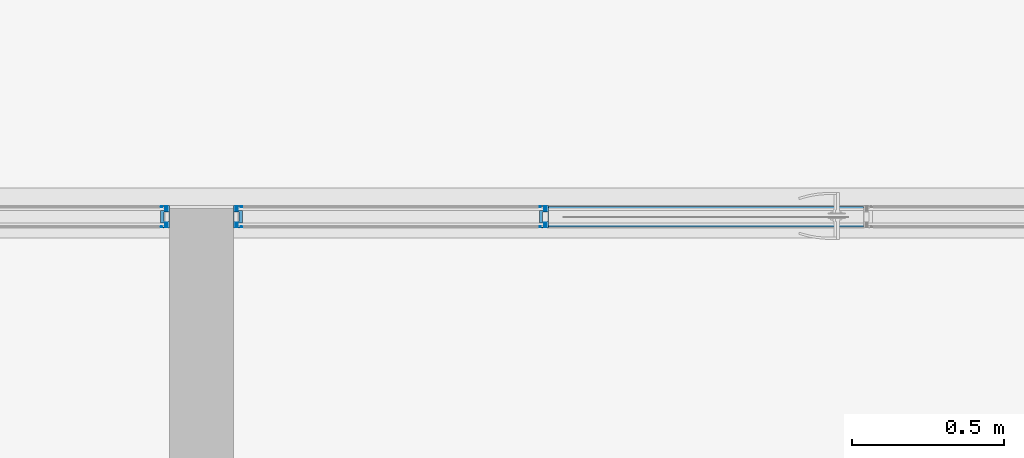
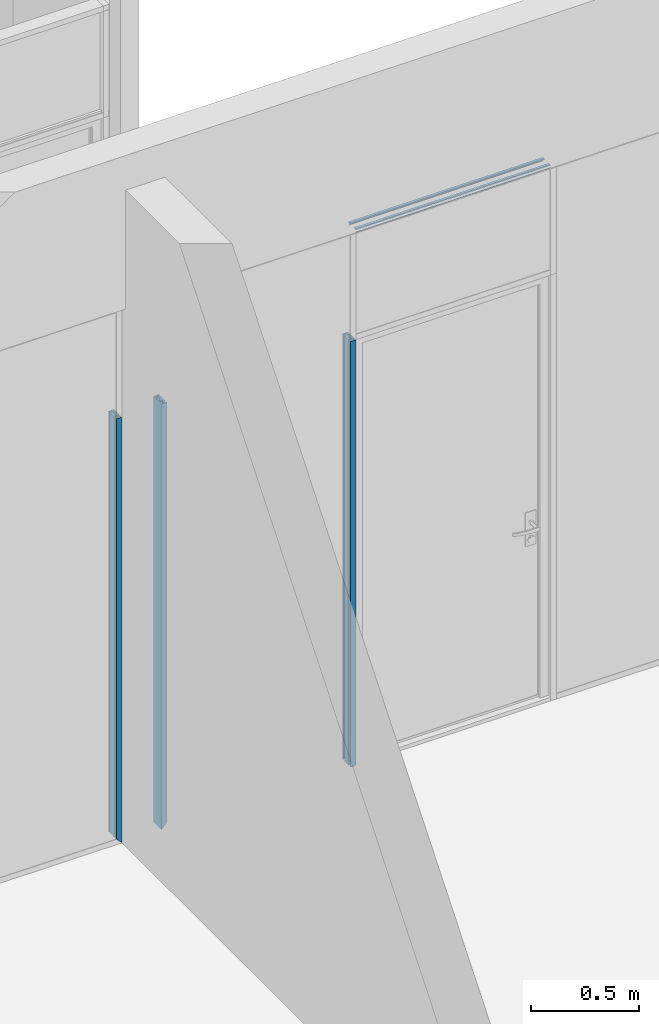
# One storey, part 80 of 387: 7 building element parts, 6 elements without a shape of their own.
"""IFC2X3 building model written with IfcOpenShell, lengths in millimetres."""

from ifc_helpers import new_model, entity, si_unit, converted_unit, derived_unit, money_unit, direction, frame, origin_with_axes, place, context, subcontext, project, spatial, faceted_brep, source, transform, mapped, material, type_object, element, aggregate, save


model = new_model("IFC2X3")

# Units and contexts
model_context = context("Model", 3, precision=0.01, world=origin_with_axes(), true_north=direction((0.0, 1.0)))
body_context = subcontext(model_context, "Body", "Model", "MODEL_VIEW")
ifc_project = project(units=[si_unit("LENGTHUNIT", "METRE", prefix="MILLI"), si_unit("AREAUNIT", "SQUARE_METRE"), si_unit("VOLUMEUNIT", "CUBIC_METRE"), converted_unit("PLANEANGLEUNIT", "DEGREE", entity("IfcPlaneAngleMeasure", 0.0174532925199), si_unit("PLANEANGLEUNIT", "RADIAN"), dimensions=[0, 0, 0, 0, 0, 0, 0]), si_unit("SOLIDANGLEUNIT", "STERADIAN"), money_unit("EUR"), converted_unit("TIMEUNIT", "Year", entity("IfcTimeMeasure", 31556926.0), si_unit("TIMEUNIT", "SECOND"), dimensions=[0, 0, 1, 0, 0, 0, 0]), si_unit("MASSUNIT", "GRAM", prefix="KILO"), si_unit("THERMODYNAMICTEMPERATUREUNIT", "DEGREE_CELSIUS"), si_unit("LUMINOUSINTENSITYUNIT", "LUMEN"), si_unit("ENERGYUNIT", "JOULE", prefix="MEGA"), derived_unit("THERMALCONDUCTANCEUNIT", [(si_unit("POWERUNIT", "WATT"), 1), (si_unit("LENGTHUNIT", "METRE"), -1), (si_unit("THERMODYNAMICTEMPERATUREUNIT", "KELVIN"), -1)]), derived_unit("SPECIFICHEATCAPACITYUNIT", [(si_unit("ENERGYUNIT", "JOULE"), 1), (si_unit("MASSUNIT", "GRAM", prefix="KILO"), -1), (si_unit("THERMODYNAMICTEMPERATUREUNIT", "KELVIN"), -1)]), derived_unit("MASSDENSITYUNIT", [(si_unit("MASSUNIT", "GRAM", prefix="KILO"), 1), (si_unit("VOLUMEUNIT", "CUBIC_METRE"), -1)])], contexts=[model_context])

# Site, building, storey
site_placement = place(None, origin_with_axes())
site = spatial("IfcSite", under=ifc_project, at=site_placement, Name="Puškini 31, Narva", CompositionType="ELEMENT")
building_placement = place(site_placement, origin_with_axes())
building = spatial("IfcBuilding", under=site, at=building_placement, Name="Narva Riigigümnaasium", CompositionType="ELEMENT")
storey_placement = place(building_placement, frame((0.0, 0.0, 2640.0), z_axis=(0.0, 0.0, 1.0), x_axis=(1.0, 0.0, 0.0)))
storey = spatial("IfcBuildingStorey", under=building, at=storey_placement, Name="2.korrus +2.64", CompositionType="ELEMENT", Elevation=2640.0)

# Curtain wall, member, building element parts
curtain_wall_type = type_object("IfcCurtainWallType", Name="Curtain Wall Type", PredefinedType="NOTDEFINED")
curtain_wall_1_placement = place(storey_placement, frame((41856.9999981, 173462.999993, -5.89838209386e-05), z_axis=(0.0, 0.0, 1.0), x_axis=(1.0, 0.0, 0.0)))
curtain_wall_1 = element("IfcCurtainWall", 1, at=curtain_wall_1_placement, inside=storey, type_object=curtain_wall_type, Name="G-SKLF-26")
member_type = type_object("IfcMemberType", Name="30 x 37", PredefinedType="MULLION")
member_1_placement = place(curtain_wall_1_placement, frame((-1557.0, 1.5319301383e-08, 0.0), z_axis=(0.0, 0.0, 1.0), x_axis=(-1.0, 0.0, 0.0)))
member_1 = element("IfcMember", 2, at=member_1_placement, type_object=member_type, Name="G-SKLF-26-raam", ObjectType="MULLION")
ifc_material_1 = material(Name="Klaasvill")
shared_shape_1 = source(origin_with_axes(), body_context, "Body", "Brep", [
    faceted_brep([(13.8499999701, 20.000000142, 13.8500005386), (13.8499999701, 20.000000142, 2400.00003102), (7.49999990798, 20.000000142, 2400.00003102), (7.49999990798, 20.000000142, 7.5000002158), (13.8499999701, 34.0161444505, 13.8500005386), (13.8499999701, 34.0161444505, 2400.00003102), (7.49999990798, 34.0161444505, 2400.00003102), (7.49999990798, 34.0161444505, 7.5000002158)], [[[0, 1, 2, 3]], [[4, 5, 1, 0]], [[2, 1, 5, 6]], [[3, 2, 6, 7]], [[3, 7, 4, 0]], [[7, 6, 5, 4]]]),
    faceted_brep([(25.004489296, 32.0307503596, 25.0044903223), (25.004489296, 32.0307503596, 2400.00003102), (24.987414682, 34.0161444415, 2400.00003102), (24.987414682, 34.0161444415, 24.9874157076), (25.742237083, 31.2930025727, 25.7422381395), (25.742237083, 31.2930025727, 2400.00003102), (26.7500193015, 31.0229681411, 2400.00003102), (27.75780152, 31.2930025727, 2400.00003102), (28.4955493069, 32.0307503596, 2400.00003102), (28.7655837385, 33.0385325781, 2400.00003102), (28.5126239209, 34.0161444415, 2400.00003102), (28.5126239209, 34.0161444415, 28.5126250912), (28.7655837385, 33.0385325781, 28.7655849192), (28.4955493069, 32.0307503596, 28.4955504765), (27.75780152, 31.2930025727, 27.7578026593), (26.7500193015, 31.0229681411, 26.7500203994)], [[[0, 1, 2, 3]], [[4, 5, 1, 0]], [[2, 1, 5, 6, 7, 8, 9, 10]], [[3, 2, 10, 11]], [[3, 11, 12, 13, 14, 15, 4, 0]], [[15, 6, 5, 4]], [[14, 7, 6, 15]], [[13, 8, 7, 14]], [[12, 9, 8, 13]], [[11, 10, 9, 12]]]),
    faceted_brep([(7.49999990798, -34.0161445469, 7.5000002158), (7.49999990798, -34.0161445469, 2400.00003102), (7.49999990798, -19.9999997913, 2400.00003102), (7.49999990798, -19.9999997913, 7.5000002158), (13.8499999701, -34.0161445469, 13.8500005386), (13.8499999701, -34.0161445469, 2400.00003102), (13.8499999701, -19.9999997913, 2400.00003102), (13.8499999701, -19.9999997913, 13.8500005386)], [[[0, 1, 2, 3]], [[4, 5, 1, 0]], [[2, 1, 5, 6]], [[3, 2, 6, 7]], [[3, 7, 4, 0]], [[7, 6, 5, 4]]]),
    faceted_brep([(24.987414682, -34.0161444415, 24.9874157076), (24.987414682, -34.0161444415, 2400.00003102), (25.004489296, -32.0307503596, 2400.00003102), (25.004489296, -32.0307503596, 25.0044903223), (28.5126239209, -34.0161444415, 28.5126250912), (28.5126239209, -34.0161444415, 2400.00003102), (28.7655837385, -33.0385325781, 2400.00003102), (28.4955493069, -32.0307503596, 2400.00003102), (27.75780152, -31.2930025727, 2400.00003102), (26.7500193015, -31.0229681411, 2400.00003102), (25.742237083, -31.2930025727, 2400.00003102), (25.742237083, -31.2930025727, 25.7422381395), (26.7500193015, -31.0229681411, 26.7500203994), (27.75780152, -31.2930025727, 27.7578026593), (28.4955493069, -32.0307503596, 28.4955504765), (28.7655837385, -33.0385325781, 28.7655849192)], [[[0, 1, 2, 3]], [[4, 5, 1, 0]], [[2, 1, 5, 6, 7, 8, 9, 10]], [[3, 2, 10, 11]], [[3, 11, 12, 13, 14, 15, 4, 0]], [[15, 6, 5, 4]], [[14, 7, 6, 15]], [[13, 8, 7, 14]], [[12, 9, 8, 13]], [[11, 10, 9, 12]]]),
])
building_element_part_1_placement = place(member_1_placement, origin_with_axes())
building_element_part_1 = element("IfcBuildingElementPart", 3, at=building_element_part_1_placement, material=ifc_material_1, Name="Klaasvill", context=body_context, shape_type="MappedRepresentation", body=[
    mapped(shared_shape_1, transform((0.0, 0.0, 0.0), x_axis=(-1.0, 0.0, 0.0), y_axis=(0.0, -1.0, 0.0), z_axis=(0.0, 0.0, 1.0))),
])
ifc_material_2 = material(Name="Teras RAL7012")
shared_shape_2 = source(origin_with_axes(), body_context, "Body", "Brep", [
    faceted_brep([(29.5999996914, -17.0000000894, 29.6000009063), (29.5999996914, -17.0000000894, 2400.00003102), (0.0, -17.0000000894, 2400.00003102), (0.0, -17.0000000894, 0.0), (29.5999996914, 17.0000000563, 29.6000009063), (29.5999996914, 17.0000000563, 2400.00003102), (0.0, 17.0000000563, 2400.00003102), (1.9999999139, 15.0000001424, 2400.00003102), (18.7999996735, 15.0000001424, 2400.00003102), (18.7999996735, -15.0000001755, 2400.00003102), (1.9999999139, -15.0000001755, 2400.00003102), (0.0, 17.0000000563, 0.0), (1.9999999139, 15.0000001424, 1.99999999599), (1.9999999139, -15.0000001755, 1.99999999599), (18.7999996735, -15.0000001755, 18.8000004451), (18.7999996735, 15.0000001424, 18.8000004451)], [[[0, 1, 2, 3]], [[4, 5, 1, 0]], [[2, 1, 5, 6], [7, 8, 9, 10]], [[3, 2, 6, 11]], [[3, 11, 4, 0], [12, 13, 14, 15]], [[11, 6, 5, 4]], [[15, 8, 7, 12]], [[14, 9, 8, 15]], [[13, 10, 9, 14]], [[12, 7, 10, 13]]]),
    faceted_brep([(29.5999996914, 17.0000000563, 29.6000009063), (29.5999996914, 17.0000000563, 2400.00003102), (0.0, 17.0, 2400.00003102), (0.0, 17.0, 0.0), (30.0000193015, 17.0, 30.0000205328), (30.0000193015, 17.0, 2400.00003102), (30.0000193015, 20.0, 2400.00003102), (13.8499999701, 20.000000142, 2400.00003102), (7.49999999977, 20.0, 2400.00003102), (7.49999999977, 34.0161444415, 2400.00003102), (13.8499999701, 34.0161444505, 2400.00003102), (24.987414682, 34.0161444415, 2400.00003102), (28.5126239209, 34.0161444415, 2400.00003102), (30.0000193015, 34.0161444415, 2400.00003102), (30.0000193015, 37.0, 2400.00003102), (0.0, 37.0, 2400.00003102), (0.0, 37.0, 0.0), (30.0000193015, 37.0, 30.0000205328), (30.0000193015, 34.0161444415, 30.0000205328), (28.5126239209, 34.0161444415, 28.5126250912), (24.987414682, 34.0161444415, 24.9874157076), (13.8499999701, 34.0161444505, 13.8500005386), (7.49999999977, 34.0161444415, 7.50000030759), (7.49999999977, 20.0, 7.50000030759), (13.8499999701, 20.000000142, 13.8500005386), (30.0000193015, 20.0, 30.0000205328)], [[[0, 1, 2, 3]], [[4, 5, 1, 0]], [[2, 1, 5, 6, 7, 8, 9, 10, 11, 12, 13, 14, 15]], [[3, 2, 15, 16]], [[3, 16, 17, 18, 19, 20, 21, 22, 23, 24, 25, 4, 0]], [[25, 6, 5, 4]], [[24, 7, 6, 25]], [[23, 8, 7, 24]], [[22, 9, 8, 23]], [[21, 10, 9, 22]], [[20, 11, 10, 21]], [[19, 12, 11, 20]], [[18, 13, 12, 19]], [[17, 14, 13, 18]], [[16, 15, 14, 17]]]),
    faceted_brep([(0.0, -37.0, 0.0), (0.0, -37.0, 2400.00003102), (0.0, -17.0, 2400.00003102), (0.0, -17.0, 0.0), (30.0000193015, -37.0, 30.0000205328), (30.0000193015, -37.0, 2400.00003102), (30.0000193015, -34.0161444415, 2400.00003102), (28.5126239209, -34.0161444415, 2400.00003102), (24.987414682, -34.0161444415, 2400.00003102), (13.8499999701, -34.0161445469, 2400.00003102), (7.49999999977, -34.0161444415, 2400.00003102), (7.49999999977, -20.0, 2400.00003102), (13.8499999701, -19.9999997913, 2400.00003102), (30.0000193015, -20.0, 2400.00003102), (30.0000193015, -17.0, 2400.00003102), (29.5999996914, -17.0000000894, 2400.00003102), (29.5999996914, -17.0000000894, 29.6000009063), (30.0000193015, -17.0, 30.0000205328), (30.0000193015, -20.0, 30.0000205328), (13.8499999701, -19.9999997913, 13.8500005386), (7.49999999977, -20.0, 7.50000030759), (7.49999999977, -34.0161444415, 7.50000030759), (13.8499999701, -34.0161445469, 13.8500005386), (24.987414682, -34.0161444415, 24.9874157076), (28.5126239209, -34.0161444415, 28.5126250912), (30.0000193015, -34.0161444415, 30.0000205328)], [[[0, 1, 2, 3]], [[4, 5, 1, 0]], [[2, 1, 5, 6, 7, 8, 9, 10, 11, 12, 13, 14, 15]], [[3, 2, 15, 16]], [[3, 16, 17, 18, 19, 20, 21, 22, 23, 24, 25, 4, 0]], [[25, 6, 5, 4]], [[24, 7, 6, 25]], [[23, 8, 7, 24]], [[22, 9, 8, 23]], [[21, 10, 9, 22]], [[20, 11, 10, 21]], [[19, 12, 11, 20]], [[18, 13, 12, 19]], [[17, 14, 13, 18]], [[16, 15, 14, 17]]]),
])
building_element_part_2_placement = place(member_1_placement, origin_with_axes())
building_element_part_2 = element("IfcBuildingElementPart", 4, at=building_element_part_2_placement, material=ifc_material_2, Name="Teras RAL7012", context=body_context, shape_type="MappedRepresentation", body=[
    mapped(shared_shape_2, transform((0.0, 0.0, 0.0), x_axis=(-1.0, 0.0, 0.0), y_axis=(0.0, -1.0, 0.0), z_axis=(0.0, 0.0, 1.0))),
])
aggregate(member_1, [building_element_part_1, building_element_part_2])

curtain_wall_2_placement = place(storey_placement, frame((37550.2857124, 173462.999993, -4.40148757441e-05), z_axis=(0.0, 0.0, 1.0), x_axis=(1.0, 0.0, 0.0)))
curtain_wall_2 = element("IfcCurtainWall", 5, at=curtain_wall_2_placement, inside=storey, type_object=curtain_wall_type, Name="G-SKLF-27")
member_2_placement = place(curtain_wall_2_placement, frame((2539.71428571, 1.77351466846e-08, 3.92464998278e-05), z_axis=(0.0, 0.0, 1.0), x_axis=(1.0, 0.0, 0.0)))
member_2 = element("IfcMember", 6, at=member_2_placement, type_object=member_type, Name="G-SKLF-45-raam", ObjectType="MULLION")
aggregate(curtain_wall_2, [member_2])
shared_shape_3 = source(origin_with_axes(), body_context, "Body", "Brep", [
    faceted_brep([(-13.8499999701, 20.000000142, 13.8499999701), (-7.49999990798, 20.000000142, 7.49999990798), (-7.49999990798, 20.000000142, 2400.00000477), (-13.8499999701, 20.000000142, 2400.00000477), (-13.8499999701, 34.0161444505, 13.8499999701), (-7.49999990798, 34.0161444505, 7.49999990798), (-7.49999990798, 34.0161444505, 2400.00000477), (-13.8499999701, 34.0161444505, 2400.00000477)], [[[0, 1, 2, 3]], [[1, 0, 4, 5]], [[1, 5, 6, 2]], [[2, 6, 7, 3]], [[4, 0, 3, 7]], [[5, 4, 7, 6]]]),
    faceted_brep([(-25.004489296, 32.0307503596, 25.004489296), (-24.987414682, 34.0161444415, 24.987414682), (-24.987414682, 34.0161444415, 2400.00000477), (-25.004489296, 32.0307503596, 2400.00000477), (-25.742237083, 31.2930025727, 25.742237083), (-26.7500193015, 31.0229681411, 26.7500193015), (-27.75780152, 31.2930025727, 27.75780152), (-28.4955493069, 32.0307503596, 28.4955493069), (-28.7655837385, 33.0385325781, 28.7655837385), (-28.5126239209, 34.0161444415, 28.5126239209), (-28.5126239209, 34.0161444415, 2400.00000477), (-28.7655837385, 33.0385325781, 2400.00000477), (-28.4955493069, 32.0307503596, 2400.00000477), (-27.75780152, 31.2930025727, 2400.00000477), (-26.7500193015, 31.0229681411, 2400.00000477), (-25.742237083, 31.2930025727, 2400.00000477)], [[[0, 1, 2, 3]], [[1, 0, 4, 5, 6, 7, 8, 9]], [[1, 9, 10, 2]], [[2, 10, 11, 12, 13, 14, 15, 3]], [[4, 0, 3, 15]], [[5, 4, 15, 14]], [[6, 5, 14, 13]], [[7, 6, 13, 12]], [[8, 7, 12, 11]], [[9, 8, 11, 10]]]),
    faceted_brep([(-7.49999990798, -34.0161445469, 7.49999990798), (-7.49999990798, -19.9999997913, 7.49999990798), (-7.49999990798, -19.9999997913, 2400.00000477), (-7.49999990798, -34.0161445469, 2400.00000477), (-13.8499999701, -34.0161445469, 13.8499999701), (-13.8499999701, -19.9999997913, 13.8499999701), (-13.8499999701, -19.9999997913, 2400.00000477), (-13.8499999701, -34.0161445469, 2400.00000477)], [[[0, 1, 2, 3]], [[1, 0, 4, 5]], [[1, 5, 6, 2]], [[2, 6, 7, 3]], [[4, 0, 3, 7]], [[5, 4, 7, 6]]]),
    faceted_brep([(-24.987414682, -34.0161444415, 24.987414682), (-25.004489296, -32.0307503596, 25.004489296), (-25.004489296, -32.0307503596, 2400.00000477), (-24.987414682, -34.0161444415, 2400.00000477), (-28.5126239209, -34.0161444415, 28.5126239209), (-28.7655837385, -33.0385325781, 28.7655837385), (-28.4955493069, -32.0307503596, 28.4955493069), (-27.75780152, -31.2930025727, 27.75780152), (-26.7500193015, -31.0229681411, 26.7500193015), (-25.742237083, -31.2930025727, 25.742237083), (-25.742237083, -31.2930025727, 2400.00000477), (-26.7500193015, -31.0229681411, 2400.00000477), (-27.75780152, -31.2930025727, 2400.00000477), (-28.4955493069, -32.0307503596, 2400.00000477), (-28.7655837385, -33.0385325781, 2400.00000477), (-28.5126239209, -34.0161444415, 2400.00000477)], [[[0, 1, 2, 3]], [[1, 0, 4, 5, 6, 7, 8, 9]], [[1, 9, 10, 2]], [[2, 10, 11, 12, 13, 14, 15, 3]], [[4, 0, 3, 15]], [[5, 4, 15, 14]], [[6, 5, 14, 13]], [[7, 6, 13, 12]], [[8, 7, 12, 11]], [[9, 8, 11, 10]]]),
])
building_element_part_3_placement = place(member_2_placement, origin_with_axes())
building_element_part_3 = element("IfcBuildingElementPart", 7, at=building_element_part_3_placement, material=ifc_material_1, Name="Klaasvill", context=body_context, shape_type="MappedRepresentation", body=[
    mapped(shared_shape_3, transform((0.0, 0.0, 0.0))),
])
shared_shape_4 = source(origin_with_axes(), body_context, "Body", "Brep", [
    faceted_brep([(-29.5999996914, -17.0000000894, 29.5999996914), (0.0, -17.0000000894, 0.0), (0.0, -17.0000000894, 2400.00000477), (-29.5999996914, -17.0000000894, 2400.00000477), (-29.5999996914, 17.0000000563, 29.5999996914), (0.0, 17.0000000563, 0.0), (-1.9999999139, 15.0000001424, 1.9999999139), (-18.7999996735, 15.0000001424, 18.7999996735), (-18.7999996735, -15.0000001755, 18.7999996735), (-1.9999999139, -15.0000001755, 1.9999999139), (0.0, 17.0000000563, 2400.00000477), (-29.5999996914, 17.0000000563, 2400.00000477), (-1.9999999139, 15.0000001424, 2400.00000477), (-1.9999999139, -15.0000001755, 2400.00000477), (-18.7999996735, -15.0000001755, 2400.00000477), (-18.7999996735, 15.0000001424, 2400.00000477)], [[[0, 1, 2, 3]], [[1, 0, 4, 5], [6, 7, 8, 9]], [[1, 5, 10, 2]], [[2, 10, 11, 3], [12, 13, 14, 15]], [[4, 0, 3, 11]], [[5, 4, 11, 10]], [[7, 6, 12, 15]], [[8, 7, 15, 14]], [[9, 8, 14, 13]], [[6, 9, 13, 12]]]),
    faceted_brep([(-29.5999996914, 17.0000000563, 29.5999996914), (0.0, 17.0, 0.0), (0.0, 17.0, 2400.00000477), (-29.5999996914, 17.0000000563, 2400.00000477), (-30.0000193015, 17.0, 30.0000193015), (-30.0000193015, 20.0, 30.0000193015), (-13.8499999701, 20.000000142, 13.8499999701), (-7.49999999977, 20.0, 7.49999999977), (-7.49999999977, 34.0161444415, 7.49999999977), (-13.8499999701, 34.0161444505, 13.8499999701), (-24.987414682, 34.0161444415, 24.987414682), (-28.5126239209, 34.0161444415, 28.5126239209), (-30.0000193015, 34.0161444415, 30.0000193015), (-30.0000193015, 37.0, 30.0000193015), (0.0, 37.0, 0.0), (0.0, 37.0, 2400.00000477), (-30.0000193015, 37.0, 2400.00000477), (-30.0000193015, 34.0161444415, 2400.00000477), (-28.5126239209, 34.0161444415, 2400.00000477), (-24.987414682, 34.0161444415, 2400.00000477), (-13.8499999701, 34.0161444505, 2400.00000477), (-7.49999999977, 34.0161444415, 2400.00000477), (-7.49999999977, 20.0, 2400.00000477), (-13.8499999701, 20.000000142, 2400.00000477), (-30.0000193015, 20.0, 2400.00000477), (-30.0000193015, 17.0, 2400.00000477)], [[[0, 1, 2, 3]], [[1, 0, 4, 5, 6, 7, 8, 9, 10, 11, 12, 13, 14]], [[1, 14, 15, 2]], [[2, 15, 16, 17, 18, 19, 20, 21, 22, 23, 24, 25, 3]], [[4, 0, 3, 25]], [[5, 4, 25, 24]], [[6, 5, 24, 23]], [[7, 6, 23, 22]], [[8, 7, 22, 21]], [[9, 8, 21, 20]], [[10, 9, 20, 19]], [[11, 10, 19, 18]], [[12, 11, 18, 17]], [[13, 12, 17, 16]], [[14, 13, 16, 15]]]),
    faceted_brep([(0.0, -37.0, 0.0), (0.0, -17.0, 0.0), (0.0, -17.0, 2400.00000477), (0.0, -37.0, 2400.00000477), (-30.0000193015, -37.0, 30.0000193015), (-30.0000193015, -34.0161444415, 30.0000193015), (-28.5126239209, -34.0161444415, 28.5126239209), (-24.987414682, -34.0161444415, 24.987414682), (-13.8499999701, -34.0161445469, 13.8499999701), (-7.49999999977, -34.0161444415, 7.49999999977), (-7.49999999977, -20.0, 7.49999999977), (-13.8499999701, -19.9999997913, 13.8499999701), (-30.0000193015, -20.0, 30.0000193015), (-30.0000193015, -17.0, 30.0000193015), (-29.5999996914, -17.0000000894, 29.5999996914), (-29.5999996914, -17.0000000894, 2400.00000477), (-30.0000193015, -17.0, 2400.00000477), (-30.0000193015, -20.0, 2400.00000477), (-13.8499999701, -19.9999997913, 2400.00000477), (-7.49999999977, -20.0, 2400.00000477), (-7.49999999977, -34.0161444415, 2400.00000477), (-13.8499999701, -34.0161445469, 2400.00000477), (-24.987414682, -34.0161444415, 2400.00000477), (-28.5126239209, -34.0161444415, 2400.00000477), (-30.0000193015, -34.0161444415, 2400.00000477), (-30.0000193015, -37.0, 2400.00000477)], [[[0, 1, 2, 3]], [[1, 0, 4, 5, 6, 7, 8, 9, 10, 11, 12, 13, 14]], [[1, 14, 15, 2]], [[2, 15, 16, 17, 18, 19, 20, 21, 22, 23, 24, 25, 3]], [[4, 0, 3, 25]], [[5, 4, 25, 24]], [[6, 5, 24, 23]], [[7, 6, 23, 22]], [[8, 7, 22, 21]], [[9, 8, 21, 20]], [[10, 9, 20, 19]], [[11, 10, 19, 18]], [[12, 11, 18, 17]], [[13, 12, 17, 16]], [[14, 13, 16, 15]]]),
])
building_element_part_4_placement = place(member_2_placement, origin_with_axes())
building_element_part_4 = element("IfcBuildingElementPart", 8, at=building_element_part_4_placement, material=ifc_material_2, Name="Teras RAL7012", context=body_context, shape_type="MappedRepresentation", body=[
    mapped(shared_shape_4, transform((0.0, 0.0, 0.0))),
])
aggregate(member_2, [building_element_part_3, building_element_part_4])

# Member, building element part
member_3_placement = place(curtain_wall_1_placement, frame((-519.0, 5.11590769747e-09, 3029.99999291), z_axis=(1.0, 0.0, 0.0), x_axis=(0.0, 0.0, 1.0)))
member_3 = element("IfcMember", 9, at=member_3_placement, type_object=member_type, Name="G-SKLF-37-raam", ObjectType="MULLION")
shared_shape_5 = source(origin_with_axes(), body_context, "Body", "Brep", [
    faceted_brep([(7.49999990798, 20.000000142, 0.0), (13.8499999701, 20.000000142, 0.0), (13.8499999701, 20.000000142, 1038.0), (7.49999990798, 20.000000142, 1038.0), (7.49999990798, 34.0161444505, 0.0), (13.8499999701, 34.0161444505, 0.0), (13.8499999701, 34.0161444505, 1038.0), (7.49999990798, 34.0161444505, 1038.0)], [[[0, 1, 2, 3]], [[0, 4, 5, 1]], [[1, 5, 6, 2]], [[3, 2, 6, 7]], [[4, 0, 3, 7]], [[5, 4, 7, 6]]]),
    faceted_brep([(24.987414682, 34.0161444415, 0.0), (25.004489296, 32.0307503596, 0.0), (25.004489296, 32.0307503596, 1038.0), (24.987414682, 34.0161444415, 1038.0), (28.5126239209, 34.0161444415, 0.0), (28.7655837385, 33.0385325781, 0.0), (28.4955493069, 32.0307503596, 0.0), (27.75780152, 31.2930025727, 0.0), (26.7500193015, 31.0229681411, 0.0), (25.742237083, 31.2930025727, 0.0), (25.742237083, 31.2930025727, 1038.0), (26.7500193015, 31.0229681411, 1038.0), (27.75780152, 31.2930025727, 1038.0), (28.4955493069, 32.0307503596, 1038.0), (28.7655837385, 33.0385325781, 1038.0), (28.5126239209, 34.0161444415, 1038.0)], [[[0, 1, 2, 3]], [[0, 4, 5, 6, 7, 8, 9, 1]], [[1, 9, 10, 2]], [[3, 2, 10, 11, 12, 13, 14, 15]], [[4, 0, 3, 15]], [[5, 4, 15, 14]], [[6, 5, 14, 13]], [[7, 6, 13, 12]], [[8, 7, 12, 11]], [[9, 8, 11, 10]]]),
    faceted_brep([(7.49999990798, -19.9999997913, 0.0), (7.49999990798, -34.0161445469, 0.0), (7.49999990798, -34.0161445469, 1038.0), (7.49999990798, -19.9999997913, 1038.0), (13.8499999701, -19.9999997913, 0.0), (13.8499999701, -34.0161445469, 0.0), (13.8499999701, -34.0161445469, 1038.0), (13.8499999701, -19.9999997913, 1038.0)], [[[0, 1, 2, 3]], [[0, 4, 5, 1]], [[1, 5, 6, 2]], [[3, 2, 6, 7]], [[4, 0, 3, 7]], [[5, 4, 7, 6]]]),
    faceted_brep([(25.004489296, -32.0307503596, 0.0), (24.987414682, -34.0161444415, 0.0), (24.987414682, -34.0161444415, 1038.0), (25.004489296, -32.0307503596, 1038.0), (25.742237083, -31.2930025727, 0.0), (26.7500193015, -31.0229681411, 0.0), (27.75780152, -31.2930025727, 0.0), (28.4955493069, -32.0307503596, 0.0), (28.7655837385, -33.0385325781, 0.0), (28.5126239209, -34.0161444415, 0.0), (28.5126239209, -34.0161444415, 1038.0), (28.7655837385, -33.0385325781, 1038.0), (28.4955493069, -32.0307503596, 1038.0), (27.75780152, -31.2930025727, 1038.0), (26.7500193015, -31.0229681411, 1038.0), (25.742237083, -31.2930025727, 1038.0)], [[[0, 1, 2, 3]], [[0, 4, 5, 6, 7, 8, 9, 1]], [[1, 9, 10, 2]], [[3, 2, 10, 11, 12, 13, 14, 15]], [[4, 0, 3, 15]], [[5, 4, 15, 14]], [[6, 5, 14, 13]], [[7, 6, 13, 12]], [[8, 7, 12, 11]], [[9, 8, 11, 10]]]),
])
building_element_part_5_placement = place(member_3_placement, origin_with_axes())
building_element_part_5 = element("IfcBuildingElementPart", 10, at=building_element_part_5_placement, material=ifc_material_1, Name="Klaasvill", context=body_context, shape_type="MappedRepresentation", body=[
    mapped(shared_shape_5, transform((0.0, 0.0, 0.0), x_axis=(-1.0, 0.0, 0.0), y_axis=(0.0, -1.0, 0.0), z_axis=(0.0, 0.0, 1.0))),
])
aggregate(member_3, [building_element_part_5])

# Member
member_4_placement = place(curtain_wall_1_placement, frame((-519.0, 5.11590769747e-09, 0.0), z_axis=(0.0, 0.0, 1.0), x_axis=(-1.0, 0.0, 0.0)))
member_4 = element("IfcMember", 11, at=member_4_placement, type_object=member_type, Name="G-SKLF-26-raam", ObjectType="MULLION")

aggregate(curtain_wall_1, [member_1, member_4, member_3])

# Building element part
shared_shape_6 = source(origin_with_axes(), body_context, "Body", "Brep", [
    faceted_brep([(-7.49999990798, 20.000000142, 0.0), (-7.49999990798, 20.000000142, 2400.00005898), (-13.8499999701, 20.000000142, 2400.00005898), (-13.8499999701, 20.000000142, 0.0), (-7.49999990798, 34.0161444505, 0.0), (-7.49999990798, 34.0161444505, 2400.00005898), (-13.8499999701, 34.0161444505, 2400.00005898), (-13.8499999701, 34.0161444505, 0.0)], [[[0, 1, 2, 3]], [[4, 5, 1, 0]], [[1, 5, 6, 2]], [[3, 2, 6, 7]], [[0, 3, 7, 4]], [[7, 6, 5, 4]]]),
    faceted_brep([(-24.987414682, 34.0161444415, 0.0), (-24.987414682, 34.0161444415, 2400.00005898), (-25.004489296, 32.0307503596, 2400.00005898), (-25.004489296, 32.0307503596, 0.0), (-28.5126239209, 34.0161444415, 0.0), (-28.5126239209, 34.0161444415, 2400.00005898), (-28.7655837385, 33.0385325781, 2400.00005898), (-28.4955493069, 32.0307503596, 2400.00005898), (-27.75780152, 31.2930025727, 2400.00005898), (-26.7500193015, 31.0229681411, 2400.00005898), (-25.742237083, 31.2930025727, 2400.00005898), (-25.742237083, 31.2930025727, 0.0), (-26.7500193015, 31.0229681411, 0.0), (-27.75780152, 31.2930025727, 0.0), (-28.4955493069, 32.0307503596, 0.0), (-28.7655837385, 33.0385325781, 0.0)], [[[0, 1, 2, 3]], [[4, 5, 1, 0]], [[1, 5, 6, 7, 8, 9, 10, 2]], [[3, 2, 10, 11]], [[0, 3, 11, 12, 13, 14, 15, 4]], [[15, 6, 5, 4]], [[14, 7, 6, 15]], [[13, 8, 7, 14]], [[12, 9, 8, 13]], [[11, 10, 9, 12]]]),
    faceted_brep([(-7.49999990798, -19.9999997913, 0.0), (-7.49999990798, -19.9999997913, 2400.00005898), (-7.49999990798, -34.0161445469, 2400.00005898), (-7.49999990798, -34.0161445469, 0.0), (-13.8499999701, -19.9999997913, 0.0), (-13.8499999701, -19.9999997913, 2400.00005898), (-13.8499999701, -34.0161445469, 2400.00005898), (-13.8499999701, -34.0161445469, 0.0)], [[[0, 1, 2, 3]], [[4, 5, 1, 0]], [[1, 5, 6, 2]], [[3, 2, 6, 7]], [[0, 3, 7, 4]], [[7, 6, 5, 4]]]),
    faceted_brep([(-25.004489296, -32.0307503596, 0.0), (-25.004489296, -32.0307503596, 2400.00005898), (-24.987414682, -34.0161444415, 2400.00005898), (-24.987414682, -34.0161444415, 0.0), (-25.742237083, -31.2930025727, 0.0), (-25.742237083, -31.2930025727, 2400.00005898), (-26.7500193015, -31.0229681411, 2400.00005898), (-27.75780152, -31.2930025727, 2400.00005898), (-28.4955493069, -32.0307503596, 2400.00005898), (-28.7655837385, -33.0385325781, 2400.00005898), (-28.5126239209, -34.0161444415, 2400.00005898), (-28.5126239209, -34.0161444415, 0.0), (-28.7655837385, -33.0385325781, 0.0), (-28.4955493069, -32.0307503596, 0.0), (-27.75780152, -31.2930025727, 0.0), (-26.7500193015, -31.0229681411, 0.0)], [[[0, 1, 2, 3]], [[4, 5, 1, 0]], [[1, 5, 6, 7, 8, 9, 10, 2]], [[3, 2, 10, 11]], [[0, 3, 11, 12, 13, 14, 15, 4]], [[15, 6, 5, 4]], [[14, 7, 6, 15]], [[13, 8, 7, 14]], [[12, 9, 8, 13]], [[11, 10, 9, 12]]]),
])
building_element_part_6_placement = place(member_4_placement, origin_with_axes())
building_element_part_6 = element("IfcBuildingElementPart", 12, at=building_element_part_6_placement, material=ifc_material_1, Name="Klaasvill", context=body_context, shape_type="MappedRepresentation", body=[
    mapped(shared_shape_6, transform((0.0, 0.0, 0.0), x_axis=(-1.0, 0.0, 0.0), y_axis=(0.0, -1.0, 0.0), z_axis=(0.0, 0.0, 1.0))),
])

shared_shape_7 = source(origin_with_axes(), body_context, "Body", "Brep", [
    faceted_brep([(0.0, -17.0000000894, 0.0), (0.0, -17.0000000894, 2400.00005898), (-29.5999996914, -17.0000000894, 2400.00005898), (-29.5999996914, -17.0000000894, 0.0), (0.0, 17.0000000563, 0.0), (0.0, 17.0000000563, 2400.00005898), (-29.5999996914, 17.0000000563, 2400.00005898), (-1.9999999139, 15.0000001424, 2400.00005898), (-1.9999999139, -15.0000001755, 2400.00005898), (-18.7999996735, -15.0000001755, 2400.00005898), (-18.7999996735, 15.0000001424, 2400.00005898), (-29.5999996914, 17.0000000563, 0.0), (-1.9999999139, 15.0000001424, 0.0), (-18.7999996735, 15.0000001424, 0.0), (-18.7999996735, -15.0000001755, 0.0), (-1.9999999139, -15.0000001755, 0.0)], [[[0, 1, 2, 3]], [[4, 5, 1, 0]], [[1, 5, 6, 2], [7, 8, 9, 10]], [[3, 2, 6, 11]], [[0, 3, 11, 4], [12, 13, 14, 15]], [[11, 6, 5, 4]], [[15, 8, 7, 12]], [[14, 9, 8, 15]], [[13, 10, 9, 14]], [[12, 7, 10, 13]]]),
    faceted_brep([(0.0, 17.0, 0.0), (0.0, 17.0, 2400.00005898), (-29.5999996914, 17.0000000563, 2400.00005898), (-29.5999996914, 17.0000000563, 0.0), (0.0, 37.0, 0.0), (0.0, 37.0, 2400.00005898), (-30.0000193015, 37.0, 2400.00005898), (-30.0000193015, 34.0161444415, 2400.00005898), (-28.5126239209, 34.0161444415, 2400.00005898), (-24.987414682, 34.0161444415, 2400.00005898), (-13.8499999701, 34.0161444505, 2400.00005898), (-7.49999999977, 34.0161444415, 2400.00005898), (-7.49999999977, 20.0, 2400.00005898), (-13.8499999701, 20.000000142, 2400.00005898), (-30.0000193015, 20.0, 2400.00005898), (-30.0000193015, 17.0, 2400.00005898), (-30.0000193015, 17.0, 0.0), (-30.0000193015, 20.0, 0.0), (-13.8499999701, 20.000000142, 0.0), (-7.49999999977, 20.0, 0.0), (-7.49999999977, 34.0161444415, 0.0), (-13.8499999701, 34.0161444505, 0.0), (-24.987414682, 34.0161444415, 0.0), (-28.5126239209, 34.0161444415, 0.0), (-30.0000193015, 34.0161444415, 0.0), (-30.0000193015, 37.0, 0.0)], [[[0, 1, 2, 3]], [[4, 5, 1, 0]], [[1, 5, 6, 7, 8, 9, 10, 11, 12, 13, 14, 15, 2]], [[3, 2, 15, 16]], [[0, 3, 16, 17, 18, 19, 20, 21, 22, 23, 24, 25, 4]], [[25, 6, 5, 4]], [[24, 7, 6, 25]], [[23, 8, 7, 24]], [[22, 9, 8, 23]], [[21, 10, 9, 22]], [[20, 11, 10, 21]], [[19, 12, 11, 20]], [[18, 13, 12, 19]], [[17, 14, 13, 18]], [[16, 15, 14, 17]]]),
    faceted_brep([(0.0, -17.0, 0.0), (0.0, -17.0, 2400.00005898), (0.0, -37.0, 2400.00005898), (0.0, -37.0, 0.0), (-29.5999996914, -17.0000000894, 0.0), (-29.5999996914, -17.0000000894, 2400.00005898), (-30.0000193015, -17.0, 2400.00005898), (-30.0000193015, -20.0, 2400.00005898), (-13.8499999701, -19.9999997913, 2400.00005898), (-7.49999999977, -20.0, 2400.00005898), (-7.49999999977, -34.0161444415, 2400.00005898), (-13.8499999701, -34.0161445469, 2400.00005898), (-24.987414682, -34.0161444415, 2400.00005898), (-28.5126239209, -34.0161444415, 2400.00005898), (-30.0000193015, -34.0161444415, 2400.00005898), (-30.0000193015, -37.0, 2400.00005898), (-30.0000193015, -37.0, 0.0), (-30.0000193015, -34.0161444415, 0.0), (-28.5126239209, -34.0161444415, 0.0), (-24.987414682, -34.0161444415, 0.0), (-13.8499999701, -34.0161445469, 0.0), (-7.49999999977, -34.0161444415, 0.0), (-7.49999999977, -20.0, 0.0), (-13.8499999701, -19.9999997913, 0.0), (-30.0000193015, -20.0, 0.0), (-30.0000193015, -17.0, 0.0)], [[[0, 1, 2, 3]], [[4, 5, 1, 0]], [[1, 5, 6, 7, 8, 9, 10, 11, 12, 13, 14, 15, 2]], [[3, 2, 15, 16]], [[0, 3, 16, 17, 18, 19, 20, 21, 22, 23, 24, 25, 4]], [[25, 6, 5, 4]], [[24, 7, 6, 25]], [[23, 8, 7, 24]], [[22, 9, 8, 23]], [[21, 10, 9, 22]], [[20, 11, 10, 21]], [[19, 12, 11, 20]], [[18, 13, 12, 19]], [[17, 14, 13, 18]], [[16, 15, 14, 17]]]),
])
building_element_part_7_placement = place(member_4_placement, origin_with_axes())
building_element_part_7 = element("IfcBuildingElementPart", 13, at=building_element_part_7_placement, material=ifc_material_2, Name="Teras RAL7012", context=body_context, shape_type="MappedRepresentation", body=[
    mapped(shared_shape_7, transform((0.0, 0.0, 0.0), x_axis=(-1.0, 0.0, 0.0), y_axis=(0.0, -1.0, 0.0), z_axis=(0.0, 0.0, 1.0))),
])

aggregate(member_4, [building_element_part_6, building_element_part_7])

save(model, "model.ifc")
